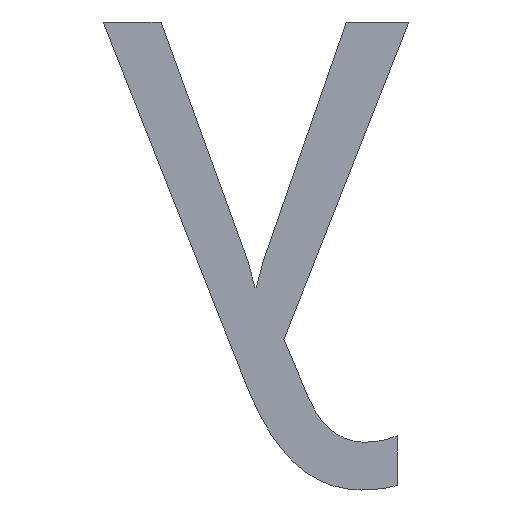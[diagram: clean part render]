
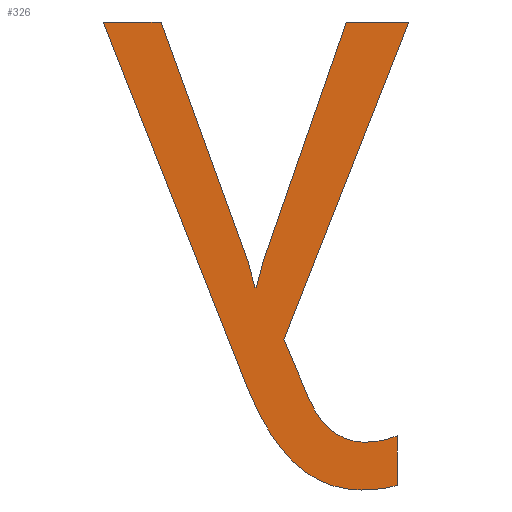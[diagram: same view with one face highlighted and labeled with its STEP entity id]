
A CAD part, left-side view. The second image highlights one B-rep face of the part: STEP entity #326.
In plain terms, the highlighted planar face has unit normal (-1, 0, 0).
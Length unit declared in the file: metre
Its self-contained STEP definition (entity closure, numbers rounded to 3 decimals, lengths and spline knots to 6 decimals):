
#17=B_SPLINE_CURVE_WITH_KNOTS('',3,(#538,#539,#540,#541),.UNSPECIFIED.,
 .F.,.F.,(4,4),(1.,2.),.UNSPECIFIED.);
#18=B_SPLINE_CURVE_WITH_KNOTS('',3,(#543,#544,#545,#546),.UNSPECIFIED.,
 .F.,.F.,(4,4),(2.,3.),.UNSPECIFIED.);
#19=B_SPLINE_CURVE_WITH_KNOTS('',3,(#550,#551,#552,#553),.UNSPECIFIED.,
 .F.,.F.,(4,4),(4.,5.),.UNSPECIFIED.);
#20=B_SPLINE_CURVE_WITH_KNOTS('',3,(#555,#556,#557,#558),.UNSPECIFIED.,
 .F.,.F.,(4,4),(5.,6.),.UNSPECIFIED.);
#21=B_SPLINE_CURVE_WITH_KNOTS('',3,(#572,#573,#574,#575),.UNSPECIFIED.,
 .F.,.F.,(4,4),(12.,13.),.UNSPECIFIED.);
#27=ORIENTED_EDGE('',*,*,#117,.F.);
#28=ORIENTED_EDGE('',*,*,#118,.F.);
#29=ORIENTED_EDGE('',*,*,#119,.F.);
#30=ORIENTED_EDGE('',*,*,#120,.F.);
#31=ORIENTED_EDGE('',*,*,#121,.F.);
#32=ORIENTED_EDGE('',*,*,#122,.F.);
#33=ORIENTED_EDGE('',*,*,#123,.F.);
#34=ORIENTED_EDGE('',*,*,#124,.F.);
#35=ORIENTED_EDGE('',*,*,#125,.F.);
#36=ORIENTED_EDGE('',*,*,#126,.F.);
#37=ORIENTED_EDGE('',*,*,#127,.F.);
#38=ORIENTED_EDGE('',*,*,#128,.F.);
#39=ORIENTED_EDGE('',*,*,#129,.F.);
#40=ORIENTED_EDGE('',*,*,#130,.F.);
#41=ORIENTED_EDGE('',*,*,#131,.F.);
#117=EDGE_CURVE('',#162,#163,#192,.T.);
#118=EDGE_CURVE('',#164,#162,#193,.T.);
#119=EDGE_CURVE('',#165,#164,#17,.T.);
#120=EDGE_CURVE('',#166,#165,#18,.T.);
#121=EDGE_CURVE('',#167,#166,#194,.T.);
#122=EDGE_CURVE('',#168,#167,#19,.T.);
#123=EDGE_CURVE('',#169,#168,#20,.T.);
#124=EDGE_CURVE('',#170,#169,#195,.T.);
#125=EDGE_CURVE('',#171,#170,#196,.T.);
#126=EDGE_CURVE('',#172,#171,#197,.T.);
#127=EDGE_CURVE('',#173,#172,#198,.T.);
#128=EDGE_CURVE('',#174,#173,#199,.T.);
#129=EDGE_CURVE('',#175,#174,#200,.T.);
#130=EDGE_CURVE('',#176,#175,#21,.T.);
#131=EDGE_CURVE('',#163,#176,#201,.T.);
#162=VERTEX_POINT('',#534);
#163=VERTEX_POINT('',#535);
#164=VERTEX_POINT('',#537);
#165=VERTEX_POINT('',#542);
#166=VERTEX_POINT('',#547);
#167=VERTEX_POINT('',#549);
#168=VERTEX_POINT('',#554);
#169=VERTEX_POINT('',#559);
#170=VERTEX_POINT('',#561);
#171=VERTEX_POINT('',#563);
#172=VERTEX_POINT('',#565);
#173=VERTEX_POINT('',#567);
#174=VERTEX_POINT('',#569);
#175=VERTEX_POINT('',#571);
#176=VERTEX_POINT('',#576);
#192=LINE('',#533,#227);
#193=LINE('',#536,#228);
#194=LINE('',#548,#229);
#195=LINE('',#560,#230);
#196=LINE('',#562,#231);
#197=LINE('',#564,#232);
#198=LINE('',#566,#233);
#199=LINE('',#568,#234);
#200=LINE('',#570,#235);
#201=LINE('',#577,#236);
#227=VECTOR('',#474,1.);
#228=VECTOR('',#475,1.);
#229=VECTOR('',#476,1.);
#230=VECTOR('',#477,1.);
#231=VECTOR('',#478,1.);
#232=VECTOR('',#479,1.);
#233=VECTOR('',#480,1.);
#234=VECTOR('',#481,1.);
#235=VECTOR('',#482,1.);
#236=VECTOR('',#483,1.);
#262=EDGE_LOOP('',(#27,#28,#29,#30,#31,#32,#33,#34,#35,#36,#37,#38,#39,
#40,#41));
#279=FACE_BOUND('',#262,.T.);
#296=PLANE('',#458);
#326=ADVANCED_FACE('',(#279),#296,.F.);
#458=AXIS2_PLACEMENT_3D('',#532,#472,#473);
#472=DIRECTION('',(1.,0.,0.));
#473=DIRECTION('',(0.,0.,-1.));
#474=DIRECTION('',(0.,-1.,0.));
#475=DIRECTION('',(0.,0.367,0.93));
#476=DIRECTION('',(0.,0.,-1.));
#477=DIRECTION('',(0.,-0.39,-0.921));
#478=DIRECTION('',(0.,0.366,-0.931));
#479=DIRECTION('',(0.,-1.,0.));
#480=DIRECTION('',(0.,-0.328,0.945));
#481=DIRECTION('',(0.,-0.252,0.968));
#482=DIRECTION('',(0.,-1.,0.));
#483=DIRECTION('',(0.,-0.341,-0.94));
#532=CARTESIAN_POINT('',(-0.056786,-0.011505,0.012754));
#533=CARTESIAN_POINT('',(-0.056786,-0.011382,0.013158));
#534=CARTESIAN_POINT('',(-0.056786,-0.011329,0.013158));
#535=CARTESIAN_POINT('',(-0.056786,-0.011382,0.013158));
#536=CARTESIAN_POINT('',(-0.056786,-0.011329,0.013158));
#537=CARTESIAN_POINT('',(-0.056786,-0.011461,0.012823));
#538=CARTESIAN_POINT('',(-0.056786,-0.011564,0.01273));
#539=CARTESIAN_POINT('',(-0.056786,-0.01152,0.01273));
#540=CARTESIAN_POINT('',(-0.056786,-0.011485,0.012761));
#541=CARTESIAN_POINT('',(-0.056786,-0.011461,0.012823));
#542=CARTESIAN_POINT('',(-0.056786,-0.011564,0.01273));
#543=CARTESIAN_POINT('',(-0.056786,-0.011597,0.012735));
#544=CARTESIAN_POINT('',(-0.056786,-0.011588,0.012732));
#545=CARTESIAN_POINT('',(-0.056786,-0.011577,0.01273));
#546=CARTESIAN_POINT('',(-0.056786,-0.011564,0.01273));
#547=CARTESIAN_POINT('',(-0.056786,-0.011597,0.012735));
#548=CARTESIAN_POINT('',(-0.056786,-0.011597,0.012735));
#549=CARTESIAN_POINT('',(-0.056786,-0.011597,0.01278));
#550=CARTESIAN_POINT('',(-0.056786,-0.011568,0.012774));
#551=CARTESIAN_POINT('',(-0.056786,-0.011578,0.012774));
#552=CARTESIAN_POINT('',(-0.056786,-0.011587,0.012776));
#553=CARTESIAN_POINT('',(-0.056786,-0.011597,0.01278));
#554=CARTESIAN_POINT('',(-0.056786,-0.011568,0.012774));
#555=CARTESIAN_POINT('',(-0.056786,-0.011516,0.012815));
#556=CARTESIAN_POINT('',(-0.056786,-0.011528,0.012788));
#557=CARTESIAN_POINT('',(-0.056786,-0.011545,0.012774));
#558=CARTESIAN_POINT('',(-0.056786,-0.011568,0.012774));
#559=CARTESIAN_POINT('',(-0.056786,-0.011516,0.012815));
#560=CARTESIAN_POINT('',(-0.056786,-0.011516,0.012815));
#561=CARTESIAN_POINT('',(-0.056786,-0.011494,0.012868));
#562=CARTESIAN_POINT('',(-0.056786,-0.011494,0.012868));
#563=CARTESIAN_POINT('',(-0.056786,-0.011608,0.013158));
#564=CARTESIAN_POINT('',(-0.056786,-0.011608,0.013158));
#565=CARTESIAN_POINT('',(-0.056786,-0.011551,0.013158));
#566=CARTESIAN_POINT('',(-0.056786,-0.011551,0.013158));
#567=CARTESIAN_POINT('',(-0.056786,-0.011475,0.012939));
#568=CARTESIAN_POINT('',(-0.056786,-0.011475,0.012939));
#569=CARTESIAN_POINT('',(-0.056786,-0.011469,0.012916));
#570=CARTESIAN_POINT('',(-0.056786,-0.011469,0.012916));
#571=CARTESIAN_POINT('',(-0.056786,-0.011467,0.012916));
#572=CARTESIAN_POINT('',(-0.056786,-0.011461,0.012939));
#573=CARTESIAN_POINT('',(-0.056786,-0.011464,0.012929));
#574=CARTESIAN_POINT('',(-0.056786,-0.011466,0.012921));
#575=CARTESIAN_POINT('',(-0.056786,-0.011467,0.012916));
#576=CARTESIAN_POINT('',(-0.056786,-0.011461,0.012939));
#577=CARTESIAN_POINT('',(-0.056786,-0.011461,0.012939));
